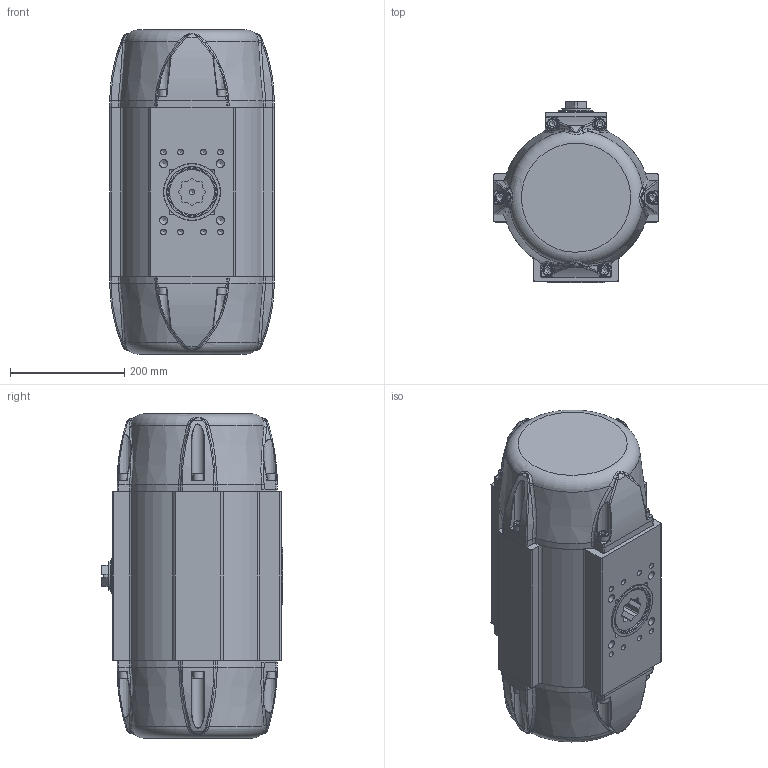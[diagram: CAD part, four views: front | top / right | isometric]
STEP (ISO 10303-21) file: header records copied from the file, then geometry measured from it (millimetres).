
FILE_DESCRIPTION((''),'2;1');
FILE_NAME('Z:\DOKUMENTATION ANTRIEBSPROGRAMM\Antriebe (neu)\BR16_SAD_SAF_90°\STEP-Dateien\42\SAF_42_BR16.stp','2017-06-20T14:22:47',('vmi'),(''),'Autodesk Inventor 2013','Autodesk Inventor 2013','');
FILE_SCHEMA(('AUTOMOTIVE_DESIGN { 1 0 10303 214 1 1 1 1 }'));
Length unit declared in the file: millimetre
Products named in the file (1): ENG-084389_Shrinkwrap_1
Bounding box: 288 x 319 x 568.2 mm (x, y, z)
Surface area: 716922.1 mm2 (no closed solid volume)
Topology: 0 solids, 30 shells, 548 faces, 1796 edges, 1200 vertices
Faces by surface type: plane 171, cylinder 169, bspline 131, cone 58, torus 19
Full cylindrical faces by diameter (mm): 4.134 x8, 8.376 x6, 10.106 x8, 11.445 x2, 14.376 x4, 18 x12, 37 x1, 49.8 x1, 88 x1, 100 x1
Entity records: 24449 total; most frequent: CARTESIAN_POINT 10136, ORIENTED_EDGE 2643, DIRECTION 2501, EDGE_CURVE 1634, VERTEX_POINT 1154, AXIS2_PLACEMENT_3D 970, EDGE_LOOP 709, VECTOR 561
